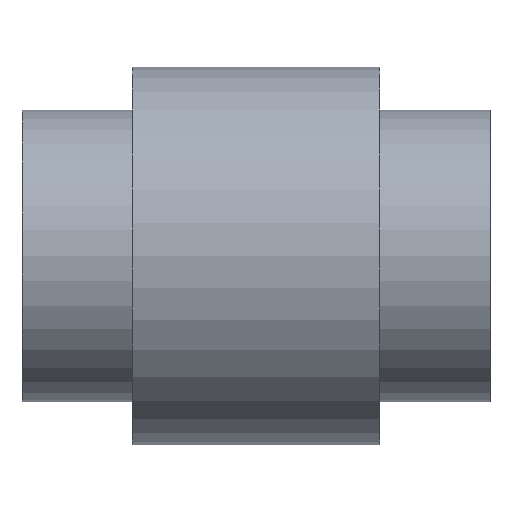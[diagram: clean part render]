
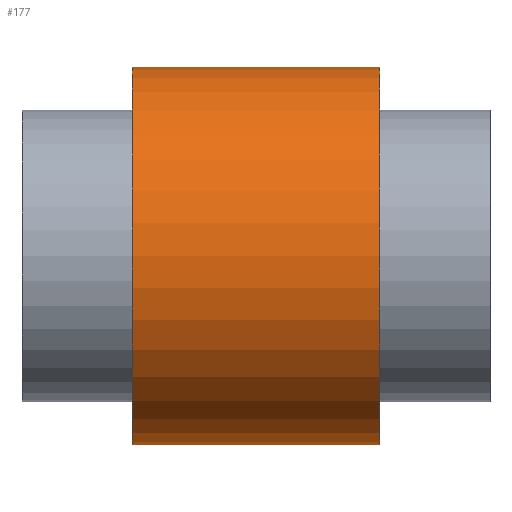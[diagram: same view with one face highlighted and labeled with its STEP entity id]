
A CAD part, top view. The second image highlights one B-rep face of the part: STEP entity #177.
In plain terms, the highlighted cylindrical face has radius 207.5 mm (diameter 415 mm), a partial arc.
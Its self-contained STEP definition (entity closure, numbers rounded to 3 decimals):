
#11=CARTESIAN_POINT('',(136.,0.,0.));
#12=DIRECTION('',(1.,0.,0.));
#13=DIRECTION('',(0.,1.,0.));
#14=AXIS2_PLACEMENT_3D('',#11,#12,#13);
#16=DIRECTION('',(-1.,0.,0.));
#17=VECTOR('',#16,272.);
#18=CARTESIAN_POINT('',(136.,207.5,0.));
#19=LINE('',#18,#17);
#20=DIRECTION('',(-1.,0.,0.));
#21=VECTOR('',#20,272.);
#22=CARTESIAN_POINT('',(136.,-207.5,0.));
#23=LINE('',#22,#21);
#34=CARTESIAN_POINT('',(-136.,0.,0.));
#35=DIRECTION('',(1.,0.,0.));
#36=DIRECTION('',(0.,1.,0.));
#37=AXIS2_PLACEMENT_3D('',#34,#35,#36);
#113=CARTESIAN_POINT('',(136.,207.5,0.));
#114=CARTESIAN_POINT('',(-136.,207.5,0.));
#115=VERTEX_POINT('',#113);
#116=VERTEX_POINT('',#114);
#117=CARTESIAN_POINT('',(136.,-207.5,0.));
#118=CARTESIAN_POINT('',(-136.,-207.5,0.));
#119=VERTEX_POINT('',#117);
#120=VERTEX_POINT('',#118);
#163=CARTESIAN_POINT('',(-282.7,0.,0.));
#164=DIRECTION('',(1.,0.,0.));
#165=DIRECTION('',(0.,-1.,0.));
#166=AXIS2_PLACEMENT_3D('',#163,#164,#165);
#167=CYLINDRICAL_SURFACE('',#166,207.5);
#169=ORIENTED_EDGE('',*,*,#168,.F.);
#170=ORIENTED_EDGE('',*,*,#150,.T.);
#172=ORIENTED_EDGE('',*,*,#171,.T.);
#174=ORIENTED_EDGE('',*,*,#173,.F.);
#175=EDGE_LOOP('',(#169,#170,#172,#174));
#176=FACE_OUTER_BOUND('',#175,.F.);
#177=ADVANCED_FACE('',(#176),#167,.T.);
#15=CIRCLE('',#14,207.5);
#38=CIRCLE('',#37,207.5);
#150=EDGE_CURVE('',#115,#119,#15,.T.);
#168=EDGE_CURVE('',#115,#116,#19,.T.);
#171=EDGE_CURVE('',#119,#120,#23,.T.);
#173=EDGE_CURVE('',#116,#120,#38,.T.);
